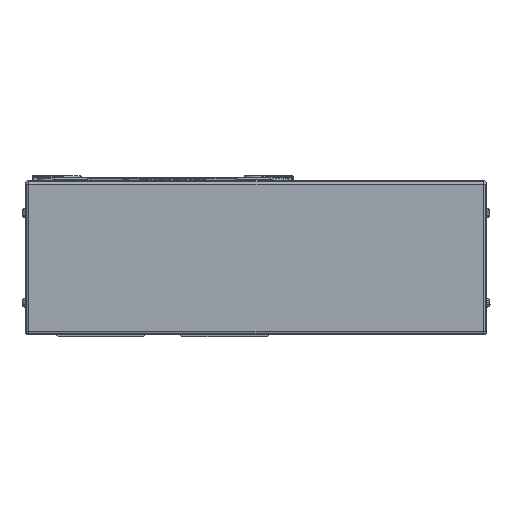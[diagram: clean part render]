
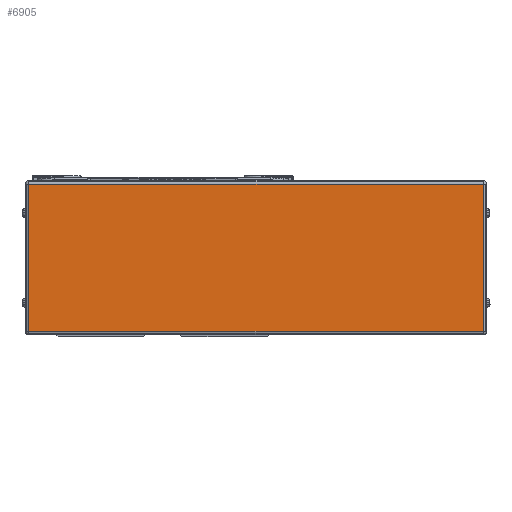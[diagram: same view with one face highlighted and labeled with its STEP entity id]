
A CAD part, left-side view. The second image highlights one B-rep face of the part: STEP entity #6905.
In plain terms, the highlighted planar face has unit normal (-1, 0, 0).
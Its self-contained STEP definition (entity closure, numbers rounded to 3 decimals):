
#6905=ADVANCED_FACE('',(#14668),#14669,.T.);
#14668=FACE_OUTER_BOUND('',#24539,.T.);
#14669=PLANE('',#24540);
#24539=EDGE_LOOP('',(#44354,#44355,#44356,#44357));
#24540=AXIS2_PLACEMENT_3D('',#44358,#44359,#44360);
#44354=ORIENTED_EDGE('',*,*,#60548,.F.);
#44355=ORIENTED_EDGE('',*,*,#59533,.F.);
#44356=ORIENTED_EDGE('',*,*,#60549,.F.);
#44357=ORIENTED_EDGE('',*,*,#60550,.F.);
#44358=CARTESIAN_POINT('',(-45.,-180.5,0.));
#44359=DIRECTION('',(-1.0,0.,0.));
#44360=DIRECTION('',(0.,0.,1.0));
#59533=EDGE_CURVE('',#66599,#71702,#73290,.T.);
#60548=EDGE_CURVE('',#71702,#73457,#74554,.T.);
#60549=EDGE_CURVE('',#69237,#66599,#74555,.T.);
#60550=EDGE_CURVE('',#73457,#69237,#74556,.T.);
#66599=VERTEX_POINT('',#82188);
#69237=VERTEX_POINT('',#85799);
#71702=VERTEX_POINT('',#89451);
#73290=LINE('',#92024,#92025);
#73457=VERTEX_POINT('',#92243);
#74554=LINE('',#94222,#94223);
#74555=LINE('',#94224,#94225);
#74556=LINE('',#94226,#94227);
#82188=CARTESIAN_POINT('',(-45.,74.5,41.));
#85799=CARTESIAN_POINT('',(-45.,74.5,-41.));
#89451=CARTESIAN_POINT('',(-45.,-178.5,41.));
#92024=CARTESIAN_POINT('',(-45.,-180.5,41.));
#92025=VECTOR('',#106069,10.0);
#92243=CARTESIAN_POINT('',(-45.,-178.5,-41.));
#94222=CARTESIAN_POINT('',(-45.,-178.5,0.));
#94223=VECTOR('',#107248,10.0);
#94224=CARTESIAN_POINT('',(-45.,74.5,0.));
#94225=VECTOR('',#107249,10.0);
#94226=CARTESIAN_POINT('',(-45.,-180.5,-41.));
#94227=VECTOR('',#107250,10.0);
#106069=DIRECTION('',(0.,-1.0,0.));
#107248=DIRECTION('',(0.,0.,-1.0));
#107249=DIRECTION('',(0.,0.,1.0));
#107250=DIRECTION('',(0.,1.0,0.));
